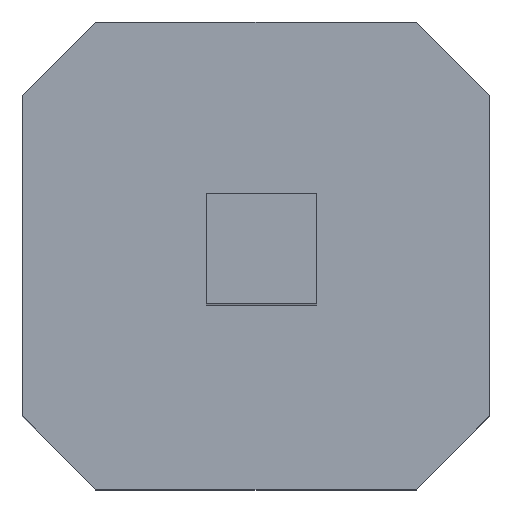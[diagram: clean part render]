
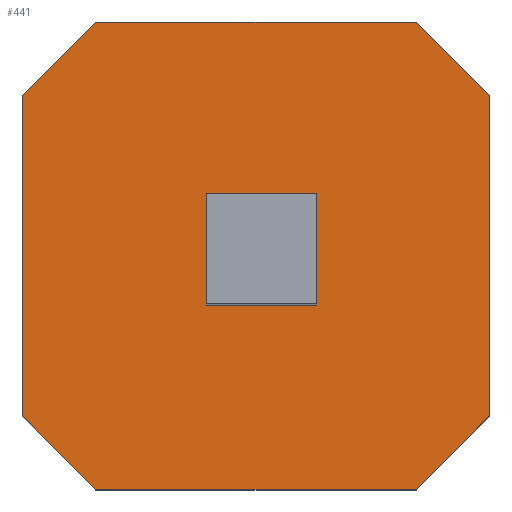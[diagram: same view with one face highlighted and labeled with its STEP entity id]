
A CAD part, top view. The second image highlights one B-rep face of the part: STEP entity #441.
In plain terms, the highlighted planar face has unit normal (0, 0, 1).
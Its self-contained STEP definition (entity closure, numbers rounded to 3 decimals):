
#253 = EDGE_CURVE('',#254,#256,#258,.T.);
#254 = VERTEX_POINT('',#255);
#255 = CARTESIAN_POINT('',(-1.27,-0.87,1.54));
#256 = VERTEX_POINT('',#257);
#257 = CARTESIAN_POINT('',(-1.27,0.87,1.54));
#258 = LINE('',#259,#260);
#259 = CARTESIAN_POINT('',(-1.27,-1.27,1.54));
#260 = VECTOR('',#261,1.);
#261 = DIRECTION('',(0.,1.,0.));
#286 = EDGE_CURVE('',#254,#287,#289,.T.);
#287 = VERTEX_POINT('',#288);
#288 = CARTESIAN_POINT('',(-0.87,-1.27,1.54));
#289 = LINE('',#290,#291);
#290 = CARTESIAN_POINT('',(-1.07,-1.07,1.54));
#291 = VECTOR('',#292,1.);
#292 = DIRECTION('',(0.707,-0.707,0.));
#310 = EDGE_CURVE('',#256,#311,#313,.T.);
#311 = VERTEX_POINT('',#312);
#312 = CARTESIAN_POINT('',(-0.87,1.27,1.54));
#313 = LINE('',#314,#315);
#314 = CARTESIAN_POINT('',(-1.705,0.435,1.54));
#315 = VECTOR('',#316,1.);
#316 = DIRECTION('',(0.707,0.707,0.));
#334 = EDGE_CURVE('',#287,#335,#337,.T.);
#335 = VERTEX_POINT('',#336);
#336 = CARTESIAN_POINT('',(0.87,-1.27,1.54));
#337 = LINE('',#338,#339);
#338 = CARTESIAN_POINT('',(-1.27,-1.27,1.54));
#339 = VECTOR('',#340,1.);
#340 = DIRECTION('',(1.,0.,0.));
#358 = EDGE_CURVE('',#311,#359,#361,.T.);
#359 = VERTEX_POINT('',#360);
#360 = CARTESIAN_POINT('',(0.87,1.27,1.54));
#361 = LINE('',#362,#363);
#362 = CARTESIAN_POINT('',(-1.27,1.27,1.54));
#363 = VECTOR('',#364,1.);
#364 = DIRECTION('',(1.,0.,0.));
#382 = VERTEX_POINT('',#383);
#383 = CARTESIAN_POINT('',(1.27,-0.87,1.54));
#389 = EDGE_CURVE('',#382,#335,#390,.T.);
#390 = LINE('',#391,#392);
#391 = CARTESIAN_POINT('',(0.435,-1.705,1.54));
#392 = VECTOR('',#393,1.);
#393 = DIRECTION('',(-0.707,-0.707,0.));
#406 = VERTEX_POINT('',#407);
#407 = CARTESIAN_POINT('',(1.27,0.87,1.54));
#413 = EDGE_CURVE('',#406,#359,#414,.T.);
#414 = LINE('',#415,#416);
#415 = CARTESIAN_POINT('',(1.07,1.07,1.54));
#416 = VECTOR('',#417,1.);
#417 = DIRECTION('',(-0.707,0.707,0.));
#428 = EDGE_CURVE('',#382,#406,#429,.T.);
#429 = LINE('',#430,#431);
#430 = CARTESIAN_POINT('',(1.27,-1.27,1.54));
#431 = VECTOR('',#432,1.);
#432 = DIRECTION('',(0.,1.,0.));
#441 = ADVANCED_FACE('',(#442,#452),#486,.T.);
#442 = FACE_BOUND('',#443,.T.);
#443 = EDGE_LOOP('',(#444,#445,#446,#447,#448,#449,#450,#451));
#444 = ORIENTED_EDGE('',*,*,#253,.F.);
#445 = ORIENTED_EDGE('',*,*,#286,.T.);
#446 = ORIENTED_EDGE('',*,*,#334,.T.);
#447 = ORIENTED_EDGE('',*,*,#389,.F.);
#448 = ORIENTED_EDGE('',*,*,#428,.T.);
#449 = ORIENTED_EDGE('',*,*,#413,.T.);
#450 = ORIENTED_EDGE('',*,*,#358,.F.);
#451 = ORIENTED_EDGE('',*,*,#310,.F.);
#452 = FACE_BOUND('',#453,.T.);
#453 = EDGE_LOOP('',(#454,#464,#472,#480));
#454 = ORIENTED_EDGE('',*,*,#455,.F.);
#455 = EDGE_CURVE('',#456,#458,#460,.T.);
#456 = VERTEX_POINT('',#457);
#457 = CARTESIAN_POINT('',(-0.27,0.33,1.54));
#458 = VERTEX_POINT('',#459);
#459 = CARTESIAN_POINT('',(-0.27,-0.27,1.54));
#460 = LINE('',#461,#462);
#461 = CARTESIAN_POINT('',(-0.27,-0.77,1.54));
#462 = VECTOR('',#463,1.);
#463 = DIRECTION('',(0.,-1.,0.));
#464 = ORIENTED_EDGE('',*,*,#465,.T.);
#465 = EDGE_CURVE('',#456,#466,#468,.T.);
#466 = VERTEX_POINT('',#467);
#467 = CARTESIAN_POINT('',(0.33,0.33,1.54));
#468 = LINE('',#469,#470);
#469 = CARTESIAN_POINT('',(-0.77,0.33,1.54));
#470 = VECTOR('',#471,1.);
#471 = DIRECTION('',(1.,0.,0.));
#472 = ORIENTED_EDGE('',*,*,#473,.T.);
#473 = EDGE_CURVE('',#466,#474,#476,.T.);
#474 = VERTEX_POINT('',#475);
#475 = CARTESIAN_POINT('',(0.33,-0.27,1.54));
#476 = LINE('',#477,#478);
#477 = CARTESIAN_POINT('',(0.33,-0.77,1.54));
#478 = VECTOR('',#479,1.);
#479 = DIRECTION('',(0.,-1.,0.));
#480 = ORIENTED_EDGE('',*,*,#481,.F.);
#481 = EDGE_CURVE('',#458,#474,#482,.T.);
#482 = LINE('',#483,#484);
#483 = CARTESIAN_POINT('',(-0.77,-0.27,1.54));
#484 = VECTOR('',#485,1.);
#485 = DIRECTION('',(1.,0.,0.));
#486 = PLANE('',#487);
#487 = AXIS2_PLACEMENT_3D('',#488,#489,#490);
#488 = CARTESIAN_POINT('',(-1.27,-1.27,1.54));
#489 = DIRECTION('',(0.,0.,1.));
#490 = DIRECTION('',(1.,0.,0.));
